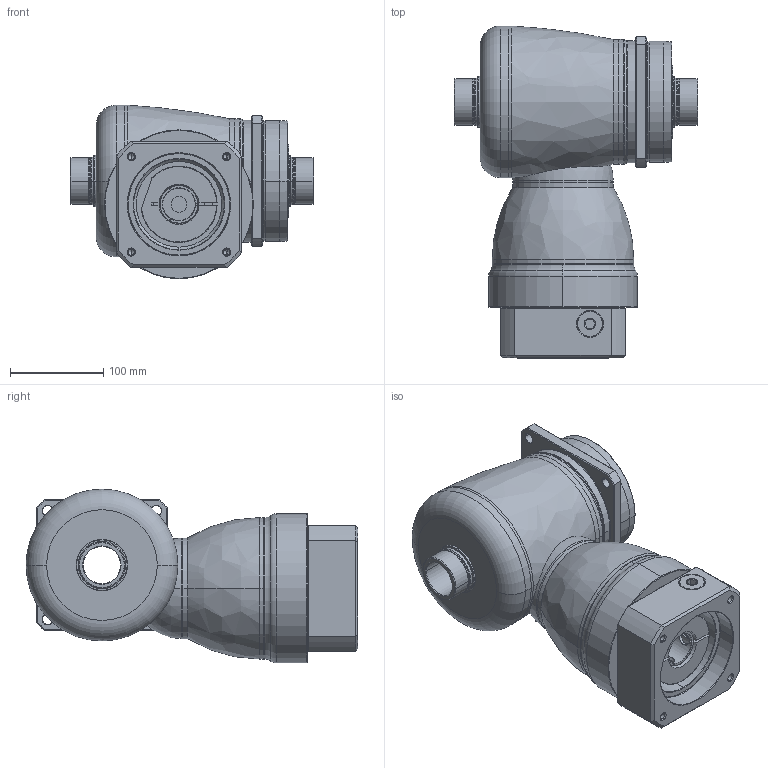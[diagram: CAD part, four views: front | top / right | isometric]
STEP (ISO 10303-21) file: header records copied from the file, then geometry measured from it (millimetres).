
FILE_DESCRIPTION((''),'2;1');
FILE_NAME('KF140_S4_1ST_35-P0409800101_ASM','2016-07-20T',('d01943'),(''),'PRO/ENGINEER BY PARAMETRIC TECHNOLOGY CORPORATION, 2008410','PRO/ENGINEER BY PARAMETRIC TECHNOLOGY CORPORATION, 2008410','');
FILE_SCHEMA(('CONFIG_CONTROL_DESIGN'));
Length unit declared in the file: millimetre
Products named in the file (11): P1008500002; P1804500001; P0914500001; P1315500001; P1007500001; P1318500301; P0409800101; P0503800012; P0912503201; 21711422019; KF140_S4_1ST_35-P0409800101_ASM
Assembly tree (10 placements, depth 2):
  KF140_S4_1ST_35-P0409800101_ASM
    P1008500002
    P1804500001
    P0914500001
    P1315500001
    P1007500001
    P1318500301
    P0409800101
    P0503800012
    P0912503201
    21711422019
Bounding box: 262 x 356.5 x 186.5 mm (x, y, z)
Volume: 5249927.8 mm3; surface area: 624122.7 mm2
Topology: 11 solids, 11 shells, 488 faces, 1078 edges, 634 vertices
Faces by surface type: cylinder 164, cone 136, plane 99, torus 66, bspline 21, sphere 2
Entity records: 18444 total; most frequent: CARTESIAN_POINT 7385, DIRECTION 2467, ORIENTED_EDGE 2120, EDGE_CURVE 1060, AXIS2_PLACEMENT_3D 1046, VERTEX_POINT 634, EDGE_LOOP 558, CIRCLE 558
